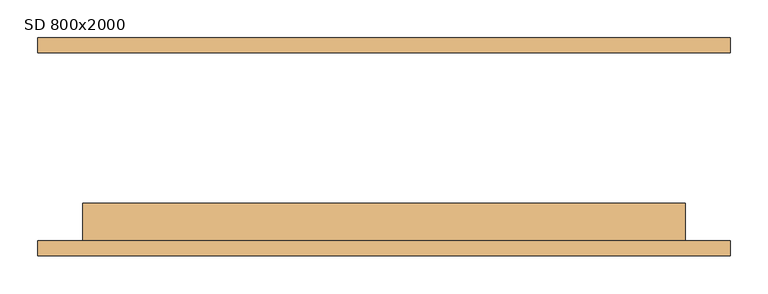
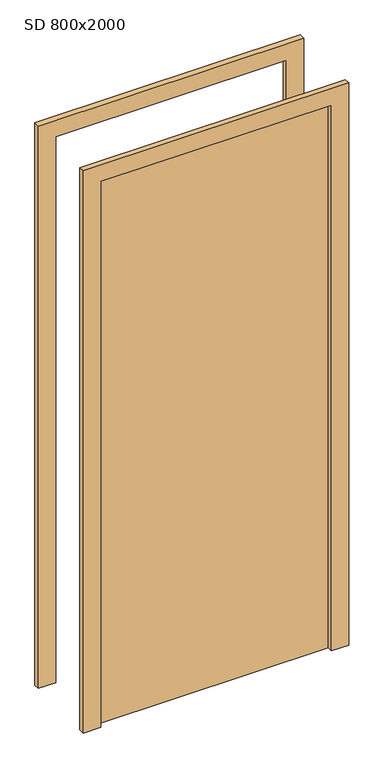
"""IFC4 building model written with IfcOpenShell, lengths in millimetres: door geometry, JednokridlePlne : SD 800x2000."""

from ifc_helpers import new_model, si_unit, frame, origin, origin_with_axes, place, context, project, spatial, polyline, outline, extrude, source, transform, mapped, element, save


def sd_800x2000_0203fe2f(model_context):
    return source(origin(), model_context, "Body", "SweptSolid", [
        extrude(outline(polyline([(2060.0, -460.0), (0.0, -460.0), (0.0, -400.0), (2000.0, -400.0), (2000.0, 400.0), (0.0, 400.0), (0.0, 460.0), (2060.0, 460.0), (2060.0, -460.0)])), frame((0.0, -145.0, 0.0), z_axis=(0.0, 1.0, 0.0), x_axis=(0.0, 0.0, 1.0)), (0.0, 0.0, 1.0), 20.0),
        extrude(outline(polyline([(2060.0, 460.0), (2060.0, -460.0), (0.0, -460.0), (0.0, -400.0), (2000.0, -400.0), (2000.0, 400.0), (0.0, 400.0), (0.0, 460.0), (2060.0, 460.0)])), frame((0.0, 125.0, 0.0), z_axis=(0.0, 1.0, 0.0), x_axis=(0.0, 0.0, 1.0)), (0.0, 0.0, 1.0), 20.0),
        extrude(outline(polyline([(400.0, -75.0), (400.0, -125.0), (-400.0, -125.0), (-400.0, -75.0), (400.0, -75.0)])), origin_with_axes(), (0.0, 0.0, 1.0), 2000.0),
    ])


if __name__ == "__main__":
    model = new_model("IFC4")
    model_context = context("Model", 3, world=origin())
    ifc_project = project(units=[si_unit("LENGTHUNIT", "METRE", prefix="MILLI")], contexts=[model_context])
    site = spatial("IfcSite", under=ifc_project)
    building = spatial("IfcBuilding", under=site)
    placement = place(None, origin())
    sd_800x2000_shape = sd_800x2000_0203fe2f(model_context)
    element("IfcDoor", 1, ObjectType="JednokridlePlne : SD 800x2000", at=placement, inside=building, context=model_context, shape_type="MappedRepresentation", body=[
        mapped(sd_800x2000_shape, transform((0.0, 0.0, 0.0), x_axis=(1.0, 0.0, 0.0), y_axis=(0.0, 1.0, 0.0), z_axis=(0.0, 0.0, 1.0))),
    ])
    save(model, "model.ifc")
